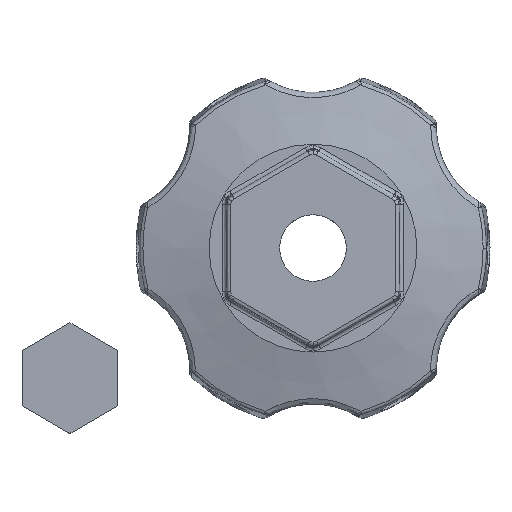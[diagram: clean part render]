
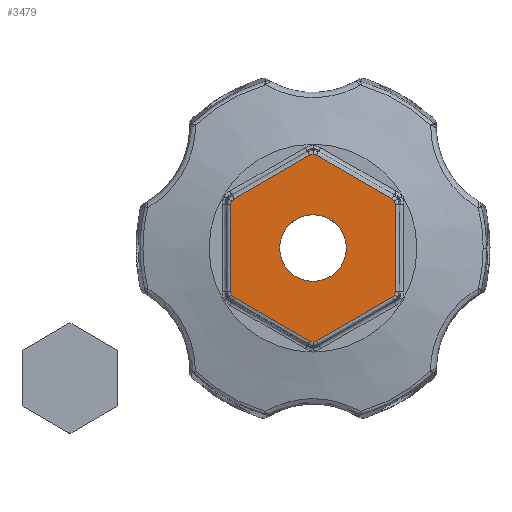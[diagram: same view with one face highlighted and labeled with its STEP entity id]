
A CAD part, top view. The second image highlights one B-rep face of the part: STEP entity #3479.
In plain terms, the highlighted planar face has unit normal (0, 0, 1).
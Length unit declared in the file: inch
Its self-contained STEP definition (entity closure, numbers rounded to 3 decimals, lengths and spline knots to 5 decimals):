
#49=PLANE('',#3708);
#89=FACE_BOUND('',#694,.T.);
#456=FACE_OUTER_BOUND('',#693,.T.);
#693=EDGE_LOOP('',(#2969,#2970,#2971,#2972,#2973,#2974,#2975,#2976,#2977,
#2978,#2979,#2980,#2981,#2982,#2983,#2984,#2985,#2986));
#694=EDGE_LOOP('',(#2987));
#730=CIRCLE('',#3529,0.03907);
#731=CIRCLE('',#3530,0.03907);
#740=CIRCLE('',#3539,0.03907);
#741=CIRCLE('',#3540,0.03907);
#752=CIRCLE('',#3551,0.03907);
#753=CIRCLE('',#3552,0.03907);
#760=CIRCLE('',#3559,0.03907);
#761=CIRCLE('',#3560,0.03907);
#765=CIRCLE('',#3564,0.03907);
#766=CIRCLE('',#3565,0.03907);
#770=CIRCLE('',#3569,0.03907);
#771=CIRCLE('',#3570,0.03907);
#832=CIRCLE('',#3693,0.1925);
#1131=B_SPLINE_CURVE_WITH_KNOTS('',3,(#10284,#10285,#10286,#10287),
 .UNSPECIFIED.,.F.,.F.,(4,4),(-1.0059,0.27266),
 .UNSPECIFIED.);
#1136=B_SPLINE_CURVE_WITH_KNOTS('',3,(#10444,#10445,#10446,#10447),
 .UNSPECIFIED.,.F.,.F.,(4,4),(-1.0059,0.27266),
 .UNSPECIFIED.);
#1148=B_SPLINE_CURVE_WITH_KNOTS('',3,(#10735,#10736,#10737,#10738),
 .UNSPECIFIED.,.F.,.F.,(4,4),(-1.0059,0.27266),
 .UNSPECIFIED.);
#1167=B_SPLINE_CURVE_WITH_KNOTS('',3,(#11093,#11094,#11095,#11096),
 .UNSPECIFIED.,.F.,.F.,(4,4),(-1.0059,0.27266),
 .UNSPECIFIED.);
#1171=B_SPLINE_CURVE_WITH_KNOTS('',3,(#11149,#11150,#11151,#11152),
 .UNSPECIFIED.,.F.,.F.,(4,4),(-1.0059,0.27266),
 .UNSPECIFIED.);
#1175=B_SPLINE_CURVE_WITH_KNOTS('',3,(#11205,#11206,#11207,#11208),
 .UNSPECIFIED.,.F.,.F.,(4,4),(-1.0059,0.27266),
 .UNSPECIFIED.);
#1214=VERTEX_POINT('',#5042);
#1215=VERTEX_POINT('',#5049);
#1217=VERTEX_POINT('',#5099);
#1238=VERTEX_POINT('',#5555);
#1239=VERTEX_POINT('',#5562);
#1241=VERTEX_POINT('',#5612);
#1266=VERTEX_POINT('',#6166);
#1267=VERTEX_POINT('',#6173);
#1269=VERTEX_POINT('',#6223);
#1286=VERTEX_POINT('',#6580);
#1287=VERTEX_POINT('',#6587);
#1289=VERTEX_POINT('',#6637);
#1298=VERTEX_POINT('',#6836);
#1299=VERTEX_POINT('',#6843);
#1301=VERTEX_POINT('',#6893);
#1310=VERTEX_POINT('',#7092);
#1311=VERTEX_POINT('',#7099);
#1313=VERTEX_POINT('',#7149);
#1473=VERTEX_POINT('',#10167);
#1548=EDGE_CURVE('',#1214,#1215,#730,.T.);
#1552=EDGE_CURVE('',#1217,#1214,#731,.T.);
#1580=EDGE_CURVE('',#1238,#1239,#740,.T.);
#1584=EDGE_CURVE('',#1241,#1238,#741,.T.);
#1618=EDGE_CURVE('',#1266,#1267,#752,.T.);
#1622=EDGE_CURVE('',#1269,#1266,#753,.T.);
#1644=EDGE_CURVE('',#1286,#1287,#760,.T.);
#1648=EDGE_CURVE('',#1289,#1286,#761,.T.);
#1660=EDGE_CURVE('',#1298,#1299,#765,.T.);
#1664=EDGE_CURVE('',#1301,#1298,#766,.T.);
#1676=EDGE_CURVE('',#1310,#1311,#770,.T.);
#1680=EDGE_CURVE('',#1313,#1310,#771,.T.);
#1951=EDGE_CURVE('',#1473,#1473,#832,.T.);
#1958=EDGE_CURVE('',#1311,#1301,#1131,.T.);
#1966=EDGE_CURVE('',#1299,#1269,#1136,.T.);
#1982=EDGE_CURVE('',#1215,#1241,#1148,.T.);
#2004=EDGE_CURVE('',#1267,#1217,#1167,.T.);
#2008=EDGE_CURVE('',#1239,#1289,#1171,.T.);
#2012=EDGE_CURVE('',#1287,#1313,#1175,.T.);
#2969=ORIENTED_EDGE('',*,*,#1552,.F.);
#2970=ORIENTED_EDGE('',*,*,#2004,.F.);
#2971=ORIENTED_EDGE('',*,*,#1618,.F.);
#2972=ORIENTED_EDGE('',*,*,#1622,.F.);
#2973=ORIENTED_EDGE('',*,*,#1966,.F.);
#2974=ORIENTED_EDGE('',*,*,#1660,.F.);
#2975=ORIENTED_EDGE('',*,*,#1664,.F.);
#2976=ORIENTED_EDGE('',*,*,#1958,.F.);
#2977=ORIENTED_EDGE('',*,*,#1676,.F.);
#2978=ORIENTED_EDGE('',*,*,#1680,.F.);
#2979=ORIENTED_EDGE('',*,*,#2012,.F.);
#2980=ORIENTED_EDGE('',*,*,#1644,.F.);
#2981=ORIENTED_EDGE('',*,*,#1648,.F.);
#2982=ORIENTED_EDGE('',*,*,#2008,.F.);
#2983=ORIENTED_EDGE('',*,*,#1580,.F.);
#2984=ORIENTED_EDGE('',*,*,#1584,.F.);
#2985=ORIENTED_EDGE('',*,*,#1982,.F.);
#2986=ORIENTED_EDGE('',*,*,#1548,.F.);
#2987=ORIENTED_EDGE('',*,*,#1951,.T.);
#3479=ADVANCED_FACE('',(#456,#89),#49,.T.);
#3529=AXIS2_PLACEMENT_3D('',#5050,#3760,#3761);
#3530=AXIS2_PLACEMENT_3D('',#5105,#3762,#3763);
#3539=AXIS2_PLACEMENT_3D('',#5563,#3780,#3781);
#3540=AXIS2_PLACEMENT_3D('',#5618,#3782,#3783);
#3551=AXIS2_PLACEMENT_3D('',#6174,#3804,#3805);
#3552=AXIS2_PLACEMENT_3D('',#6229,#3806,#3807);
#3559=AXIS2_PLACEMENT_3D('',#6588,#3820,#3821);
#3560=AXIS2_PLACEMENT_3D('',#6643,#3822,#3823);
#3564=AXIS2_PLACEMENT_3D('',#6844,#3830,#3831);
#3565=AXIS2_PLACEMENT_3D('',#6899,#3832,#3833);
#3569=AXIS2_PLACEMENT_3D('',#7100,#3840,#3841);
#3570=AXIS2_PLACEMENT_3D('',#7155,#3842,#3843);
#3693=AXIS2_PLACEMENT_3D('',#10168,#4131,#4132);
#3708=AXIS2_PLACEMENT_3D('',#11211,#4162,#4163);
#3760=DIRECTION('center_axis',(0.,0.,-1.));
#3761=DIRECTION('ref_axis',(-0.866,-0.5,0.));
#3762=DIRECTION('center_axis',(0.,0.,-1.));
#3763=DIRECTION('ref_axis',(-0.866,-0.5,0.));
#3780=DIRECTION('center_axis',(0.,0.,-1.));
#3781=DIRECTION('ref_axis',(-0.866,0.5,0.));
#3782=DIRECTION('center_axis',(0.,0.,-1.));
#3783=DIRECTION('ref_axis',(-0.866,0.5,0.));
#3804=DIRECTION('center_axis',(0.,0.,-1.));
#3805=DIRECTION('ref_axis',(0.,-1.,0.));
#3806=DIRECTION('center_axis',(0.,0.,-1.));
#3807=DIRECTION('ref_axis',(0.,-1.,0.));
#3820=DIRECTION('center_axis',(0.,0.,-1.));
#3821=DIRECTION('ref_axis',(0.,1.,0.));
#3822=DIRECTION('center_axis',(0.,0.,-1.));
#3823=DIRECTION('ref_axis',(0.,1.,0.));
#3830=DIRECTION('center_axis',(0.,0.,-1.));
#3831=DIRECTION('ref_axis',(0.866,-0.5,0.));
#3832=DIRECTION('center_axis',(0.,0.,-1.));
#3833=DIRECTION('ref_axis',(0.866,-0.5,0.));
#3840=DIRECTION('center_axis',(0.,0.,-1.));
#3841=DIRECTION('ref_axis',(0.866,0.5,0.));
#3842=DIRECTION('center_axis',(0.,0.,-1.));
#3843=DIRECTION('ref_axis',(0.866,0.5,0.));
#4131=DIRECTION('center_axis',(0.,0.,-1.));
#4132=DIRECTION('ref_axis',(1.,0.,0.));
#4162=DIRECTION('center_axis',(0.,0.,1.));
#4163=DIRECTION('ref_axis',(1.,0.,0.));
#5042=CARTESIAN_POINT('',(-0.46977,-0.27122,0.));
#5049=CARTESIAN_POINT('',(-0.475,-0.25169,0.));
#5050=CARTESIAN_POINT('Origin',(-0.43593,-0.25169,0.));
#5099=CARTESIAN_POINT('',(-0.45547,-0.28552,0.));
#5105=CARTESIAN_POINT('Origin',(-0.43593,-0.25169,0.));
#5555=CARTESIAN_POINT('',(-0.46977,0.27122,0.));
#5562=CARTESIAN_POINT('',(-0.45547,0.28552,0.));
#5563=CARTESIAN_POINT('Origin',(-0.43593,0.25169,0.));
#5612=CARTESIAN_POINT('',(-0.475,0.25169,0.));
#5618=CARTESIAN_POINT('Origin',(-0.43593,0.25169,0.));
#6166=CARTESIAN_POINT('',(0.,-0.54244,0.));
#6173=CARTESIAN_POINT('',(-0.01953,-0.5372,0.));
#6174=CARTESIAN_POINT('Origin',(0.,-0.50337,
0.));
#6223=CARTESIAN_POINT('',(0.01953,-0.5372,0.));
#6229=CARTESIAN_POINT('Origin',(0.,-0.50337,
0.));
#6580=CARTESIAN_POINT('',(0.,0.54244,0.));
#6587=CARTESIAN_POINT('',(0.01953,0.5372,0.));
#6588=CARTESIAN_POINT('Origin',(0.,0.50337,
0.));
#6637=CARTESIAN_POINT('',(-0.01953,0.5372,0.));
#6643=CARTESIAN_POINT('Origin',(0.,0.50337,
0.));
#6836=CARTESIAN_POINT('',(0.46977,-0.27122,0.));
#6843=CARTESIAN_POINT('',(0.45547,-0.28552,0.));
#6844=CARTESIAN_POINT('Origin',(0.43593,-0.25169,0.));
#6893=CARTESIAN_POINT('',(0.475,-0.25169,0.));
#6899=CARTESIAN_POINT('Origin',(0.43593,-0.25169,0.));
#7092=CARTESIAN_POINT('',(0.46977,0.27122,0.));
#7099=CARTESIAN_POINT('',(0.475,0.25169,0.));
#7100=CARTESIAN_POINT('Origin',(0.43593,0.25169,0.));
#7149=CARTESIAN_POINT('',(0.45547,0.28552,0.));
#7155=CARTESIAN_POINT('Origin',(0.43593,0.25169,0.));
#10167=CARTESIAN_POINT('',(-0.1925,0.,0.));
#10168=CARTESIAN_POINT('Origin',(0.,0.,0.));
#10284=CARTESIAN_POINT('Ctrl Pts',(0.475,0.25169,0.));
#10285=CARTESIAN_POINT('Ctrl Pts',(0.475,0.0839,0.));
#10286=CARTESIAN_POINT('Ctrl Pts',(0.475,-0.0839,0.));
#10287=CARTESIAN_POINT('Ctrl Pts',(0.475,-0.25169,0.));
#10444=CARTESIAN_POINT('Ctrl Pts',(0.45547,-0.28552,
0.));
#10445=CARTESIAN_POINT('Ctrl Pts',(0.31016,-0.36941,
0.));
#10446=CARTESIAN_POINT('Ctrl Pts',(0.16484,-0.45331,
0.));
#10447=CARTESIAN_POINT('Ctrl Pts',(0.01953,-0.5372,
0.));
#10735=CARTESIAN_POINT('Ctrl Pts',(-0.475,-0.25169,0.));
#10736=CARTESIAN_POINT('Ctrl Pts',(-0.475,-0.0839,0.));
#10737=CARTESIAN_POINT('Ctrl Pts',(-0.475,0.0839,0.));
#10738=CARTESIAN_POINT('Ctrl Pts',(-0.475,0.25169,0.));
#11093=CARTESIAN_POINT('Ctrl Pts',(-0.01953,-0.5372,
0.));
#11094=CARTESIAN_POINT('Ctrl Pts',(-0.16484,-0.45331,
0.));
#11095=CARTESIAN_POINT('Ctrl Pts',(-0.31016,-0.36941,
0.));
#11096=CARTESIAN_POINT('Ctrl Pts',(-0.45547,-0.28552,
0.));
#11149=CARTESIAN_POINT('Ctrl Pts',(-0.45547,0.28552,
0.));
#11150=CARTESIAN_POINT('Ctrl Pts',(-0.31016,0.36941,
0.));
#11151=CARTESIAN_POINT('Ctrl Pts',(-0.16484,0.45331,
0.));
#11152=CARTESIAN_POINT('Ctrl Pts',(-0.01953,0.5372,
0.));
#11205=CARTESIAN_POINT('Ctrl Pts',(0.01953,0.5372,
0.));
#11206=CARTESIAN_POINT('Ctrl Pts',(0.16484,0.45331,0.));
#11207=CARTESIAN_POINT('Ctrl Pts',(0.31016,0.36941,0.));
#11208=CARTESIAN_POINT('Ctrl Pts',(0.45547,0.28552,
0.));
#11211=CARTESIAN_POINT('Origin',(0.,0.,0.));
